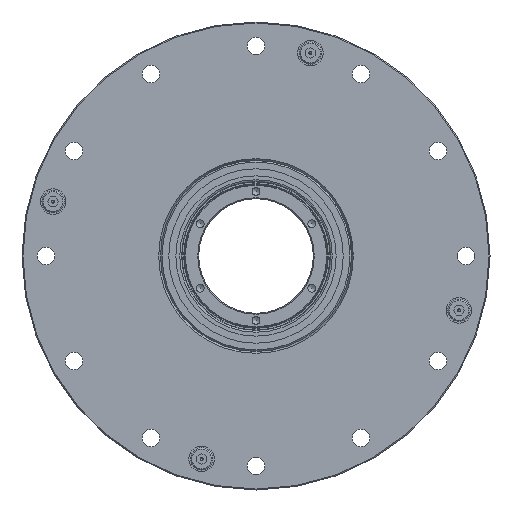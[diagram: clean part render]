
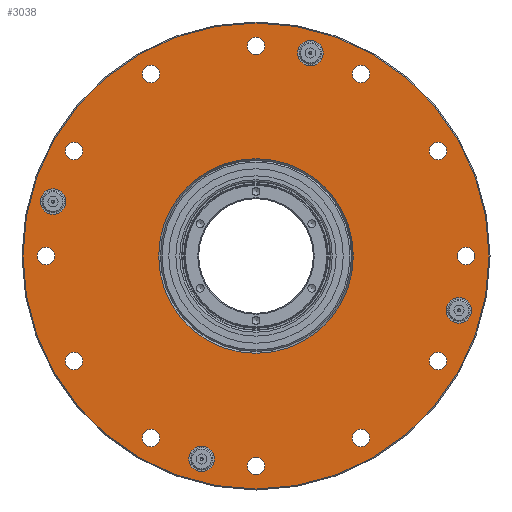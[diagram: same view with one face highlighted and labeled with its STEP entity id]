
A CAD part, left-side view. The second image highlights one B-rep face of the part: STEP entity #3038.
In plain terms, the highlighted planar face has unit normal (-1, 0, 0).
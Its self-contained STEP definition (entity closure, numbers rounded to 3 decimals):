
#2298=PLANE('',#14016);
#3038=ADVANCED_FACE('',(#4628,#4629,#4630,#4631,#4632,#4633,#4634,#4635,
#4636,#4637,#4638,#4639,#4640,#4641,#4642,#4643,#4644,#4645),#2298,.T.);
#4628=FACE_BOUND('',#6234,.T.);
#4629=FACE_BOUND('',#6235,.T.);
#4630=FACE_BOUND('',#6236,.T.);
#4631=FACE_BOUND('',#6237,.T.);
#4632=FACE_BOUND('',#6238,.T.);
#4633=FACE_BOUND('',#6239,.T.);
#4634=FACE_BOUND('',#6240,.T.);
#4635=FACE_BOUND('',#6241,.T.);
#4636=FACE_BOUND('',#6242,.T.);
#4637=FACE_BOUND('',#6243,.T.);
#4638=FACE_BOUND('',#6244,.T.);
#4639=FACE_BOUND('',#6245,.T.);
#4640=FACE_BOUND('',#6246,.T.);
#4641=FACE_BOUND('',#6247,.T.);
#4642=FACE_BOUND('',#6248,.T.);
#4643=FACE_BOUND('',#6249,.T.);
#4644=FACE_BOUND('',#6250,.T.);
#4645=FACE_BOUND('',#6251,.T.);
#6234=EDGE_LOOP('',(#8548));
#6235=EDGE_LOOP('',(#8549));
#6236=EDGE_LOOP('',(#8550));
#6237=EDGE_LOOP('',(#8551));
#6238=EDGE_LOOP('',(#8552));
#6239=EDGE_LOOP('',(#8553));
#6240=EDGE_LOOP('',(#8554));
#6241=EDGE_LOOP('',(#8555));
#6242=EDGE_LOOP('',(#8556));
#6243=EDGE_LOOP('',(#8557));
#6244=EDGE_LOOP('',(#8558));
#6245=EDGE_LOOP('',(#8559));
#6246=EDGE_LOOP('',(#8560));
#6247=EDGE_LOOP('',(#8561));
#6248=EDGE_LOOP('',(#8562));
#6249=EDGE_LOOP('',(#8563));
#6250=EDGE_LOOP('',(#8564));
#6251=EDGE_LOOP('',(#8565));
#8548=ORIENTED_EDGE('',*,*,#11201,.T.);
#8549=ORIENTED_EDGE('',*,*,#11202,.T.);
#8550=ORIENTED_EDGE('',*,*,#11203,.T.);
#8551=ORIENTED_EDGE('',*,*,#11204,.T.);
#8552=ORIENTED_EDGE('',*,*,#11205,.T.);
#8553=ORIENTED_EDGE('',*,*,#11206,.F.);
#8554=ORIENTED_EDGE('',*,*,#11207,.F.);
#8555=ORIENTED_EDGE('',*,*,#11208,.F.);
#8556=ORIENTED_EDGE('',*,*,#11209,.F.);
#8557=ORIENTED_EDGE('',*,*,#11210,.F.);
#8558=ORIENTED_EDGE('',*,*,#11211,.F.);
#8559=ORIENTED_EDGE('',*,*,#11212,.F.);
#8560=ORIENTED_EDGE('',*,*,#11213,.F.);
#8561=ORIENTED_EDGE('',*,*,#11214,.F.);
#8562=ORIENTED_EDGE('',*,*,#11215,.F.);
#8563=ORIENTED_EDGE('',*,*,#11216,.F.);
#8564=ORIENTED_EDGE('',*,*,#11217,.F.);
#8565=ORIENTED_EDGE('',*,*,#11200,.F.);
#9980=VERTEX_POINT('',#24398);
#9981=VERTEX_POINT('',#24401);
#9982=VERTEX_POINT('',#24403);
#9983=VERTEX_POINT('',#24405);
#9984=VERTEX_POINT('',#24407);
#9985=VERTEX_POINT('',#24409);
#9986=VERTEX_POINT('',#24411);
#9987=VERTEX_POINT('',#24413);
#9988=VERTEX_POINT('',#24415);
#9989=VERTEX_POINT('',#24417);
#9990=VERTEX_POINT('',#24419);
#9991=VERTEX_POINT('',#24421);
#9992=VERTEX_POINT('',#24423);
#9993=VERTEX_POINT('',#24425);
#9994=VERTEX_POINT('',#24427);
#9995=VERTEX_POINT('',#24429);
#9996=VERTEX_POINT('',#24431);
#9997=VERTEX_POINT('',#24433);
#11200=EDGE_CURVE('',#9980,#9980,#12491,.T.);
#11201=EDGE_CURVE('',#9981,#9981,#12492,.T.);
#11202=EDGE_CURVE('',#9982,#9982,#12493,.T.);
#11203=EDGE_CURVE('',#9983,#9983,#12494,.T.);
#11204=EDGE_CURVE('',#9984,#9984,#12495,.T.);
#11205=EDGE_CURVE('',#9985,#9985,#12496,.T.);
#11206=EDGE_CURVE('',#9986,#9986,#12497,.T.);
#11207=EDGE_CURVE('',#9987,#9987,#12498,.T.);
#11208=EDGE_CURVE('',#9988,#9988,#12499,.T.);
#11209=EDGE_CURVE('',#9989,#9989,#12500,.T.);
#11210=EDGE_CURVE('',#9990,#9990,#12501,.T.);
#11211=EDGE_CURVE('',#9991,#9991,#12502,.T.);
#11212=EDGE_CURVE('',#9992,#9992,#12503,.T.);
#11213=EDGE_CURVE('',#9993,#9993,#12504,.T.);
#11214=EDGE_CURVE('',#9994,#9994,#12505,.T.);
#11215=EDGE_CURVE('',#9995,#9995,#12506,.T.);
#11216=EDGE_CURVE('',#9996,#9996,#12507,.T.);
#11217=EDGE_CURVE('',#9997,#9997,#12508,.T.);
#12491=CIRCLE('',#13997,30.577);
#12492=CIRCLE('',#13999,73.2);
#12493=CIRCLE('',#14000,4.);
#12494=CIRCLE('',#14001,4.);
#12495=CIRCLE('',#14002,4.);
#12496=CIRCLE('',#14003,4.);
#12497=CIRCLE('',#14004,2.75);
#12498=CIRCLE('',#14005,2.75);
#12499=CIRCLE('',#14006,2.75);
#12500=CIRCLE('',#14007,2.75);
#12501=CIRCLE('',#14008,2.75);
#12502=CIRCLE('',#14009,2.75);
#12503=CIRCLE('',#14010,2.75);
#12504=CIRCLE('',#14011,2.75);
#12505=CIRCLE('',#14012,2.75);
#12506=CIRCLE('',#14013,2.75);
#12507=CIRCLE('',#14014,2.75);
#12508=CIRCLE('',#14015,2.75);
#13997=AXIS2_PLACEMENT_3D('',#24397,#17229,#17230);
#13999=AXIS2_PLACEMENT_3D('',#24400,#17233,#17234);
#14000=AXIS2_PLACEMENT_3D('',#24402,#17235,#17236);
#14001=AXIS2_PLACEMENT_3D('',#24404,#17237,#17238);
#14002=AXIS2_PLACEMENT_3D('',#24406,#17239,#17240);
#14003=AXIS2_PLACEMENT_3D('',#24408,#17241,#17242);
#14004=AXIS2_PLACEMENT_3D('',#24410,#17243,#17244);
#14005=AXIS2_PLACEMENT_3D('',#24412,#17245,#17246);
#14006=AXIS2_PLACEMENT_3D('',#24414,#17247,#17248);
#14007=AXIS2_PLACEMENT_3D('',#24416,#17249,#17250);
#14008=AXIS2_PLACEMENT_3D('',#24418,#17251,#17252);
#14009=AXIS2_PLACEMENT_3D('',#24420,#17253,#17254);
#14010=AXIS2_PLACEMENT_3D('',#24422,#17255,#17256);
#14011=AXIS2_PLACEMENT_3D('',#24424,#17257,#17258);
#14012=AXIS2_PLACEMENT_3D('',#24426,#17259,#17260);
#14013=AXIS2_PLACEMENT_3D('',#24428,#17261,#17262);
#14014=AXIS2_PLACEMENT_3D('',#24430,#17263,#17264);
#14015=AXIS2_PLACEMENT_3D('',#24432,#17265,#17266);
#14016=AXIS2_PLACEMENT_3D('',#24434,#17267,#17268);
#17229=DIRECTION('',(-1.,0.,0.));
#17230=DIRECTION('',(0.,0.,1.));
#17233=DIRECTION('',(-1.,0.,0.));
#17234=DIRECTION('',(0.,0.,1.));
#17235=DIRECTION('',(1.,0.,0.));
#17236=DIRECTION('',(0.,0.,-1.));
#17237=DIRECTION('',(1.,0.,0.));
#17238=DIRECTION('',(0.,0.,-1.));
#17239=DIRECTION('',(1.,0.,0.));
#17240=DIRECTION('',(0.,0.,-1.));
#17241=DIRECTION('',(1.,0.,0.));
#17242=DIRECTION('',(0.,0.,-1.));
#17243=DIRECTION('',(-1.,0.,0.));
#17244=DIRECTION('',(0.,0.,1.));
#17245=DIRECTION('',(-1.,0.,0.));
#17246=DIRECTION('',(0.,0.,1.));
#17247=DIRECTION('',(-1.,0.,0.));
#17248=DIRECTION('',(0.,0.,1.));
#17249=DIRECTION('',(-1.,0.,0.));
#17250=DIRECTION('',(0.,0.,1.));
#17251=DIRECTION('',(-1.,0.,0.));
#17252=DIRECTION('',(0.,0.,1.));
#17253=DIRECTION('',(-1.,0.,0.));
#17254=DIRECTION('',(0.,0.,1.));
#17255=DIRECTION('',(-1.,0.,0.));
#17256=DIRECTION('',(0.,0.,1.));
#17257=DIRECTION('',(-1.,0.,0.));
#17258=DIRECTION('',(0.,0.,1.));
#17259=DIRECTION('',(-1.,0.,0.));
#17260=DIRECTION('',(0.,0.,1.));
#17261=DIRECTION('',(-1.,0.,0.));
#17262=DIRECTION('',(0.,0.,1.));
#17263=DIRECTION('',(-1.,0.,0.));
#17264=DIRECTION('',(0.,0.,1.));
#17265=DIRECTION('',(-1.,0.,0.));
#17266=DIRECTION('',(0.,0.,1.));
#17267=DIRECTION('',(-1.,0.,0.));
#17268=DIRECTION('',(0.,0.,1.));
#24397=CARTESIAN_POINT('',(7.,0.,0.));
#24398=CARTESIAN_POINT('',(7.,0.,30.577));
#24400=CARTESIAN_POINT('',(7.,0.,0.));
#24401=CARTESIAN_POINT('',(7.,0.,73.2));
#24402=CARTESIAN_POINT('',(7.,63.751,17.082));
#24403=CARTESIAN_POINT('',(7.,63.751,13.082));
#24404=CARTESIAN_POINT('',(7.,17.082,-63.751));
#24405=CARTESIAN_POINT('',(7.,17.082,-67.751));
#24406=CARTESIAN_POINT('',(7.,-63.751,-17.082));
#24407=CARTESIAN_POINT('',(7.,-63.751,-21.082));
#24408=CARTESIAN_POINT('',(7.,-17.082,63.751));
#24409=CARTESIAN_POINT('',(7.,-17.082,59.751));
#24410=CARTESIAN_POINT('',(7.,33.,57.158));
#24411=CARTESIAN_POINT('',(7.,33.,59.908));
#24412=CARTESIAN_POINT('',(7.,57.158,33.));
#24413=CARTESIAN_POINT('',(7.,57.158,35.75));
#24414=CARTESIAN_POINT('',(7.,66.,0.));
#24415=CARTESIAN_POINT('',(7.,66.,2.75));
#24416=CARTESIAN_POINT('',(7.,57.158,-33.));
#24417=CARTESIAN_POINT('',(7.,57.158,-30.25));
#24418=CARTESIAN_POINT('',(7.,33.,-57.158));
#24419=CARTESIAN_POINT('',(7.,33.,-54.408));
#24420=CARTESIAN_POINT('',(7.,0.,-66.));
#24421=CARTESIAN_POINT('',(7.,0.,-63.25));
#24422=CARTESIAN_POINT('',(7.,-33.,-57.158));
#24423=CARTESIAN_POINT('',(7.,-33.,-54.408));
#24424=CARTESIAN_POINT('',(7.,-57.158,-33.));
#24425=CARTESIAN_POINT('',(7.,-57.158,-30.25));
#24426=CARTESIAN_POINT('',(7.,-66.,0.));
#24427=CARTESIAN_POINT('',(7.,-66.,2.75));
#24428=CARTESIAN_POINT('',(7.,-57.158,33.));
#24429=CARTESIAN_POINT('',(7.,-57.158,35.75));
#24430=CARTESIAN_POINT('',(7.,-33.,57.158));
#24431=CARTESIAN_POINT('',(7.,-33.,59.908));
#24432=CARTESIAN_POINT('',(7.,0.,66.));
#24433=CARTESIAN_POINT('',(7.,0.,68.75));
#24434=CARTESIAN_POINT('',(7.,0.,30.577));
